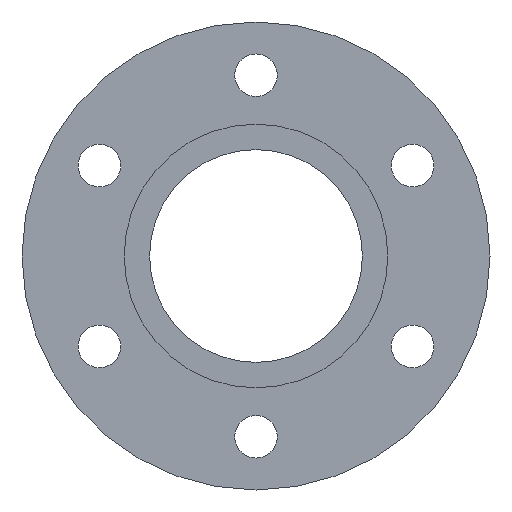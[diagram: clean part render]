
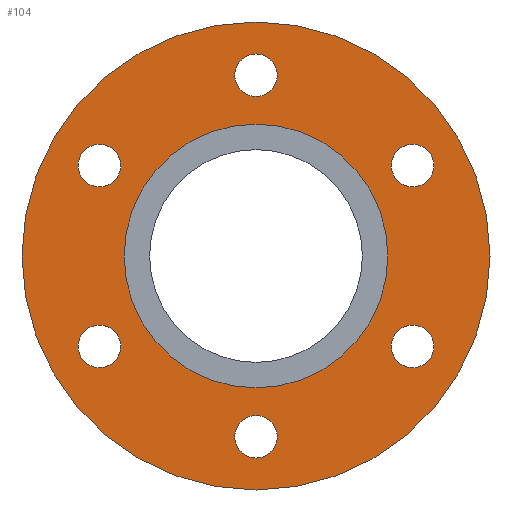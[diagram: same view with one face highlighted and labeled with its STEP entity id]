
A CAD part, front view. The second image highlights one B-rep face of the part: STEP entity #104.
In plain terms, the highlighted planar face has unit normal (0, -1, 0).
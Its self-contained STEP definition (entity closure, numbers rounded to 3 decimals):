
#97=PLANE('',#294);
#100=FACE_OUTER_BOUND('',#166,.T.);
#104=ADVANCED_FACE('',(#126,#127,#128,#129,#130,#131,#132,#100),#97,.F.);
#126=FACE_BOUND('',#159,.T.);
#127=FACE_BOUND('',#160,.T.);
#128=FACE_BOUND('',#161,.T.);
#129=FACE_BOUND('',#162,.T.);
#130=FACE_BOUND('',#163,.T.);
#131=FACE_BOUND('',#164,.T.);
#132=FACE_BOUND('',#165,.T.);
#159=EDGE_LOOP('',(#195));
#160=EDGE_LOOP('',(#196));
#161=EDGE_LOOP('',(#197));
#162=EDGE_LOOP('',(#198));
#163=EDGE_LOOP('',(#199));
#164=EDGE_LOOP('',(#200));
#165=EDGE_LOOP('',(#201));
#166=EDGE_LOOP('',(#202));
#195=ORIENTED_EDGE('',*,*,#249,.T.);
#196=ORIENTED_EDGE('',*,*,#250,.T.);
#197=ORIENTED_EDGE('',*,*,#251,.T.);
#198=ORIENTED_EDGE('',*,*,#252,.T.);
#199=ORIENTED_EDGE('',*,*,#253,.T.);
#200=ORIENTED_EDGE('',*,*,#254,.T.);
#201=ORIENTED_EDGE('',*,*,#255,.F.);
#202=ORIENTED_EDGE('',*,*,#247,.T.);
#229=VERTEX_POINT('',#378);
#231=VERTEX_POINT('',#383);
#232=VERTEX_POINT('',#385);
#233=VERTEX_POINT('',#387);
#234=VERTEX_POINT('',#389);
#235=VERTEX_POINT('',#391);
#236=VERTEX_POINT('',#393);
#237=VERTEX_POINT('',#395);
#247=EDGE_CURVE('',#229,#229,#265,.T.);
#249=EDGE_CURVE('',#231,#231,#267,.T.);
#250=EDGE_CURVE('',#232,#232,#268,.T.);
#251=EDGE_CURVE('',#233,#233,#269,.T.);
#252=EDGE_CURVE('',#234,#234,#270,.T.);
#253=EDGE_CURVE('',#235,#235,#271,.T.);
#254=EDGE_CURVE('',#236,#236,#272,.T.);
#255=EDGE_CURVE('',#237,#237,#273,.T.);
#265=CIRCLE('',#284,110.);
#267=CIRCLE('',#287,10.);
#268=CIRCLE('',#288,10.);
#269=CIRCLE('',#289,10.);
#270=CIRCLE('',#290,10.);
#271=CIRCLE('',#291,10.);
#272=CIRCLE('',#292,10.);
#273=CIRCLE('',#293,62.);
#284=AXIS2_PLACEMENT_3D('',#377,#316,#317);
#287=AXIS2_PLACEMENT_3D('',#382,#322,#323);
#288=AXIS2_PLACEMENT_3D('',#384,#324,#325);
#289=AXIS2_PLACEMENT_3D('',#386,#326,#327);
#290=AXIS2_PLACEMENT_3D('',#388,#328,#329);
#291=AXIS2_PLACEMENT_3D('',#390,#330,#331);
#292=AXIS2_PLACEMENT_3D('',#392,#332,#333);
#293=AXIS2_PLACEMENT_3D('',#394,#334,#335);
#294=AXIS2_PLACEMENT_3D('',#396,#336,#337);
#316=DIRECTION('',(0.,-1.,0.));
#317=DIRECTION('',(0.,0.,-1.));
#322=DIRECTION('',(0.,1.,0.));
#323=DIRECTION('',(-0.866,0.,0.5));
#324=DIRECTION('',(0.,1.,0.));
#325=DIRECTION('',(-0.866,0.,-0.5));
#326=DIRECTION('',(0.,1.,0.));
#327=DIRECTION('',(0.,0.,-1.));
#328=DIRECTION('',(0.,1.,0.));
#329=DIRECTION('',(0.866,0.,-0.5));
#330=DIRECTION('',(0.,1.,0.));
#331=DIRECTION('',(0.866,0.,0.5));
#332=DIRECTION('',(0.,1.,0.));
#333=DIRECTION('',(0.,0.,1.));
#334=DIRECTION('',(0.,-1.,0.));
#335=DIRECTION('',(0.,0.,-1.));
#336=DIRECTION('',(0.,1.,0.));
#337=DIRECTION('',(0.,0.,1.));
#377=CARTESIAN_POINT('',(0.,50.,0.));
#378=CARTESIAN_POINT('',(0.,50.,-110.));
#382=CARTESIAN_POINT('',(-73.612,50.,42.5));
#383=CARTESIAN_POINT('',(-82.272,50.,47.5));
#384=CARTESIAN_POINT('',(-73.612,50.,-42.5));
#385=CARTESIAN_POINT('',(-82.272,50.,-47.5));
#386=CARTESIAN_POINT('',(0.,50.,-85.));
#387=CARTESIAN_POINT('',(0.,50.,-95.));
#388=CARTESIAN_POINT('',(73.612,50.,-42.5));
#389=CARTESIAN_POINT('',(82.272,50.,-47.5));
#390=CARTESIAN_POINT('',(73.612,50.,42.5));
#391=CARTESIAN_POINT('',(82.272,50.,47.5));
#392=CARTESIAN_POINT('',(0.,50.,85.));
#393=CARTESIAN_POINT('',(0.,50.,95.));
#394=CARTESIAN_POINT('',(0.,50.,0.));
#395=CARTESIAN_POINT('',(0.,50.,-62.));
#396=CARTESIAN_POINT('',(0.,50.,110.));
